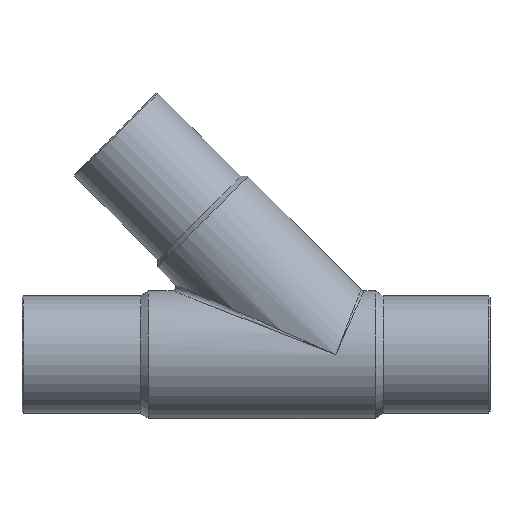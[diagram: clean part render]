
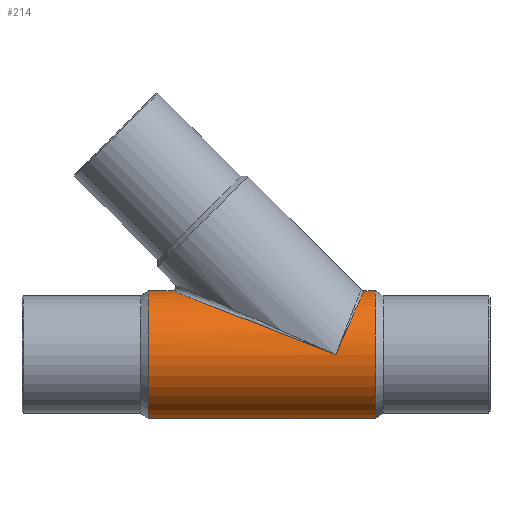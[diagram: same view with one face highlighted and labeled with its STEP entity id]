
A CAD part, front view. The second image highlights one B-rep face of the part: STEP entity #214.
In plain terms, the highlighted cylindrical face has radius 49 mm (diameter 98 mm), a full revolution.
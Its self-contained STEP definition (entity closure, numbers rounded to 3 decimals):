
#33=CIRCLE('',#250,49.);
#34=CIRCLE('',#253,49.);
#50=ORIENTED_EDGE('',*,*,#92,.T.);
#51=ORIENTED_EDGE('',*,*,#93,.T.);
#52=ORIENTED_EDGE('',*,*,#94,.T.);
#53=ORIENTED_EDGE('',*,*,#95,.F.);
#92=EDGE_CURVE('',#113,#113,#33,.T.);
#93=EDGE_CURVE('',#114,#115,#130,.T.);
#94=EDGE_CURVE('',#115,#114,#131,.T.);
#95=EDGE_CURVE('',#116,#116,#34,.T.);
#113=VERTEX_POINT('',#369);
#114=VERTEX_POINT('',#371);
#115=VERTEX_POINT('',#372);
#116=VERTEX_POINT('',#375);
#130=ELLIPSE('',#251,134.763,49.);
#131=ELLIPSE('',#252,53.525,49.);
#137=EDGE_LOOP('',(#50));
#138=EDGE_LOOP('',(#51,#52));
#139=EDGE_LOOP('',(#53));
#173=FACE_BOUND('',#137,.T.);
#174=FACE_BOUND('',#138,.T.);
#175=FACE_BOUND('',#139,.T.);
#207=CYLINDRICAL_SURFACE('',#249,49.);
#214=ADVANCED_FACE('',(#173,#174,#175),#207,.T.);
#249=AXIS2_PLACEMENT_3D('',#367,#293,#294);
#250=AXIS2_PLACEMENT_3D('',#368,#295,#296);
#251=AXIS2_PLACEMENT_3D('',#370,#297,#298);
#252=AXIS2_PLACEMENT_3D('',#373,#299,#300);
#253=AXIS2_PLACEMENT_3D('',#374,#301,#302);
#293=DIRECTION('',(-1.,0.,0.));
#294=DIRECTION('',(0.,0.,1.));
#295=DIRECTION('',(-1.,0.,0.));
#296=DIRECTION('',(0.,0.,1.));
#297=DIRECTION('',(-0.364,0.,-0.932));
#298=DIRECTION('',(-0.932,0.,0.364));
#299=DIRECTION('',(0.915,0.,-0.402));
#300=DIRECTION('',(0.402,0.,0.915));
#301=DIRECTION('',(-1.,0.,0.));
#302=DIRECTION('',(0.,0.,1.));
#367=CARTESIAN_POINT('',(-60.,0.,0.));
#368=CARTESIAN_POINT('',(91.5,0.,0.));
#369=CARTESIAN_POINT('',(91.5,0.,49.));
#370=CARTESIAN_POINT('',(61.204,0.,0.));
#371=CARTESIAN_POINT('',(61.204,-49.,0.));
#372=CARTESIAN_POINT('',(61.204,49.,0.));
#373=CARTESIAN_POINT('',(61.204,0.,0.));
#374=CARTESIAN_POINT('',(-82.5,0.,0.));
#375=CARTESIAN_POINT('',(-82.5,0.,49.));
